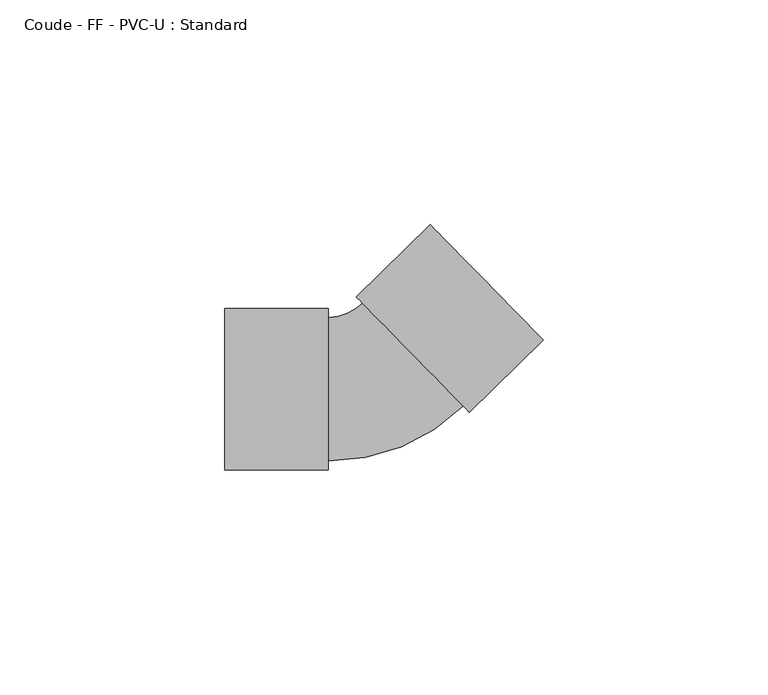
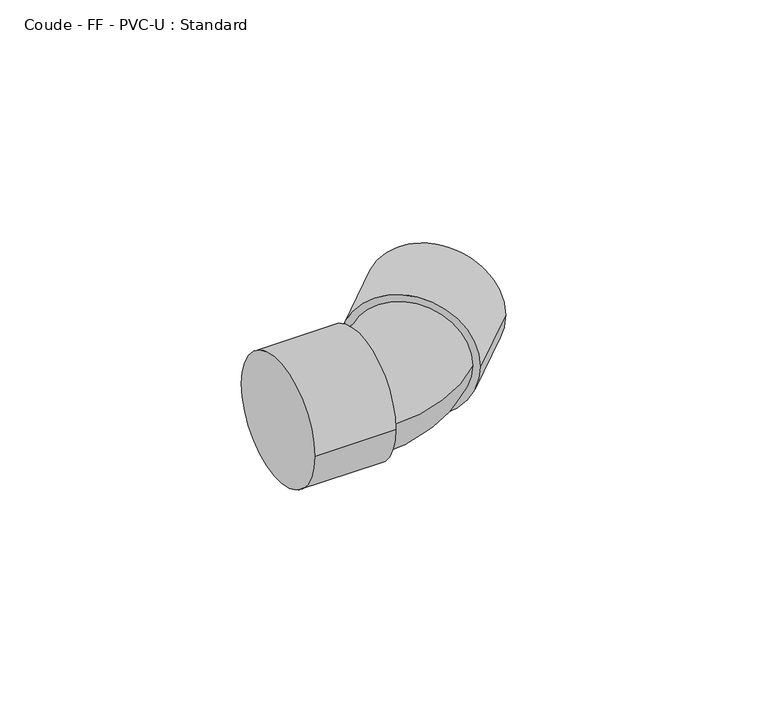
"""IFC4 building model written with IfcOpenShell, lengths in millimetres: pipe fitting geometry, Coude - FF - PVC-U : Standard."""

from ifc_helpers import new_model, si_unit, point, frame, origin, place, context, project, spatial, circle_curve, ellipse_curve, trimmed, source, transform, mapped, element, save
from ifc_brep_helpers import plane_surface, cylinder_surface, revolved_surface, advanced_brep


def coude_ff_pvc_u_standard_4925b195(model_context):
    return source(origin(), model_context, "Body", "AdvancedBrep", [
        advanced_brep(
        [(-34.0, -18.0, 0.0), (-34.0, 18.0, 0.0), (-11.0, -18.0, 0.0), (-11.0, 18.0, 0.0), (-11.0, -16.0, 0.0), (-11.0, 16.0, 0.0), (-3.3444479, 19.1262821, 0.0), (19.055575, -3.7262664, 0.0), (20.4555764, -5.1545507, 0.0), (-4.7444493, 20.5545664, 0.0), (36.8808457, 10.9454657, 0.0), (11.68082, 36.6545829, 0.0)],
        [
            (0, 1, circle_curve(frame((-34.0, 0.0, 0.0), z_axis=(-1.0, 0.0, 0.0), x_axis=(0.0, 1.0, 0.0)), 18.0)),
            (1, 0, circle_curve(frame((-34.0, 0.0, 0.0), z_axis=(-1.0, 0.0, 0.0), x_axis=(0.0, 1.0, 0.0)), 18.0)),
            (2, 3, circle_curve(frame((-11.0, 0.0, 0.0), z_axis=(1.0, 0.0, 0.0), x_axis=(0.0, 1.0, 0.0)), 18.0)),
            (3, 2, circle_curve(frame((-11.0, 0.0, 0.0), z_axis=(1.0, 0.0, 0.0), x_axis=(0.0, 1.0, 0.0)), 18.0)),
            (4, 5, circle_curve(frame((-11.0, 0.0, 0.0), z_axis=(-1.0, 0.0, 0.0), x_axis=(0.0, 1.0, 0.0)), 16.0)),
            (5, 4, circle_curve(frame((-11.0, 0.0, 0.0), z_axis=(-1.0, 0.0, 0.0), x_axis=(0.0, 1.0, 0.0)), 16.0)),
            (0, 2),
            (3, 1),
            (6, 5, circle_curve(frame((-11.0, 26.9364919, 0.0), z_axis=(0.0, 0.0, -1.0), x_axis=(0.0, -1.0, 0.0)), 10.9364919)),
            (4, 7, circle_curve(frame((-11.0, 26.9364919, 0.0), z_axis=(0.0, 0.0, 1.0), x_axis=(0.0, -1.0, 0.0)), 42.9364919)),
            (7, 6, circle_curve(frame((7.8555636, 7.7000079, 0.0), z_axis=(-0.7141421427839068, -0.7000007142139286, 0.0), x_axis=(-0.7000007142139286, 0.7141421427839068, 0.0)), 16.0)),
            (6, 7, circle_curve(frame((7.8555636, 7.7000079, 0.0), z_axis=(-0.7141421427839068, -0.7000007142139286, 0.0), x_axis=(-0.7000007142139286, 0.7141421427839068, 0.0)), 16.0)),
            (8, 9, circle_curve(frame((7.8555636, 7.7000079, 0.0), z_axis=(-0.7141421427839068, -0.7000007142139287, 0.0), x_axis=(-0.7000007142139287, 0.7141421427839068, 0.0)), 18.0)),
            (9, 8, circle_curve(frame((7.8555636, 7.7000079, 0.0), z_axis=(-0.7141421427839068, -0.7000007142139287, 0.0), x_axis=(-0.7000007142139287, 0.7141421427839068, 0.0)), 18.0)),
            (10, 11, circle_curve(frame((24.2808329, 23.8000243, 0.0), z_axis=(0.7141421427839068, 0.7000007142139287, 0.0), x_axis=(-0.7000007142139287, 0.7141421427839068, 0.0)), 18.0)),
            (11, 10, circle_curve(frame((24.2808329, 23.8000243, 0.0), z_axis=(0.7141421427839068, 0.7000007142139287, 0.0), x_axis=(-0.7000007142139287, 0.7141421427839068, 0.0)), 18.0)),
            (8, 10),
            (11, 9),
        ],
        [
            plane_surface(frame((-34.0, 0.0, 0.0), z_axis=(-1.0, 0.0, 0.0), x_axis=(0.0, 0.0, 1.0))),
            plane_surface(frame((-11.0, 0.0, 0.0), z_axis=(1.0, 0.0, 0.0), x_axis=(0.0, 0.0, 1.0))),
            cylinder_surface(frame((-34.0, 0.0, 0.0), z_axis=(-1.0, 0.0, 0.0), x_axis=(0.0, 1.0, 0.0)), 18.0),
            revolved_surface(trimmed(ellipse_curve(frame((-11.0, 0.0, 0.0), z_axis=(-1.0, 0.0, 0.0), x_axis=(0.0, 1.0, 0.0)), 16.0, 16.0), [point((-11.0, -16.0, 0.0))], [point((-11.0, 16.0, 0.0))], True, "CARTESIAN"), (-11.0, 26.9364919, 0.0), (0.0, 0.0, 1.0)),
            revolved_surface(trimmed(ellipse_curve(frame((-11.0, 0.0, 0.0), z_axis=(-1.0, 0.0, 0.0), x_axis=(0.0, 1.0, 0.0)), 16.0, 16.0), [point((-11.0, 16.0, 0.0))], [point((-11.0, -16.0, 0.0))], True, "CARTESIAN"), (-11.0, 26.9364919, 0.0), (0.0, 0.0, 1.0)),
            plane_surface(frame((7.8555636, 7.7000079, 0.0), z_axis=(-0.7141421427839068, -0.7000007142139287, 0.0), x_axis=(0.0, 0.0, 1.0))),
            plane_surface(frame((24.2808329, 23.8000243, 0.0), z_axis=(0.7141421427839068, 0.7000007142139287, 0.0), x_axis=(0.0, 0.0, 1.0))),
            cylinder_surface(frame((7.8555636, 7.7000079, 0.0), z_axis=(-0.7141421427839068, -0.7000007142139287, 0.0), x_axis=(-0.7000007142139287, 0.7141421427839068, 0.0)), 18.0),
        ],
        [
            (0, [[1, 2]]),
            (1, [[3, 4], [5, 6]]),
            (2, [[-1, 7, -4, 8]]),
            (2, [[-2, -8, -3, -7]]),
            (3, [[9, -5, 10, 11]]),
            (4, [[-9, 12, -10, -6]]),
            (5, [[13, 14], [-11, -12]]),
            (6, [[15, 16]]),
            (7, [[-13, 17, -16, 18]]),
            (7, [[-14, -18, -15, -17]]),
        ],
    ),
    ])


if __name__ == "__main__":
    model = new_model("IFC4")
    model_context = context("Model", 3, world=origin())
    ifc_project = project(units=[si_unit("LENGTHUNIT", "METRE", prefix="MILLI")], contexts=[model_context])
    site = spatial("IfcSite", under=ifc_project)
    building = spatial("IfcBuilding", under=site)
    placement = place(None, origin())
    coude_ff_pvc_u_standard_shape = coude_ff_pvc_u_standard_4925b195(model_context)
    element("IfcPipeFitting", 1, ObjectType="Coude - FF - PVC-U : Standard", at=placement, inside=building, context=model_context, shape_type="MappedRepresentation", body=[
        mapped(coude_ff_pvc_u_standard_shape, transform((0.0, 0.0, 0.0), x_axis=(1.0, 0.0, 0.0), y_axis=(0.0, 1.0, 0.0), z_axis=(0.0, 0.0, 1.0))),
    ])
    save(model, "model.ifc")
